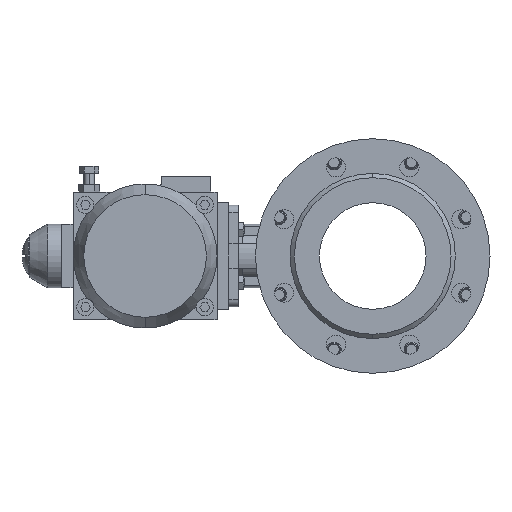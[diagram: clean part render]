
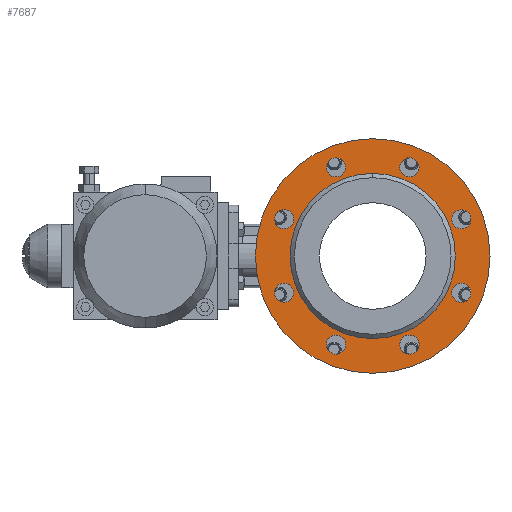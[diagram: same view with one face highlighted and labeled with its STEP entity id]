
A CAD part, left-side view. The second image highlights one B-rep face of the part: STEP entity #7687.
In plain terms, the highlighted planar face has unit normal (-1, 0, 0).
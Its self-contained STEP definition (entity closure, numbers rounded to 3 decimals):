
#1923=CARTESIAN_POINT('',(-77.,0.,0.));
#1924=DIRECTION('',(-1.,0.,0.));
#1925=DIRECTION('',(0.,0.,1.));
#1926=AXIS2_PLACEMENT_3D('',#1923,#1924,#1925);
#1928=CARTESIAN_POINT('',(-77.,0.,0.));
#1929=DIRECTION('',(-1.,0.,0.));
#1930=DIRECTION('',(0.,0.,-1.));
#1931=AXIS2_PLACEMENT_3D('',#1928,#1929,#1930);
#1933=CARTESIAN_POINT('',(-77.,0.,0.));
#1934=DIRECTION('',(-1.,0.,0.));
#1935=DIRECTION('',(0.,0.,1.));
#1936=AXIS2_PLACEMENT_3D('',#1933,#1934,#1935);
#1938=CARTESIAN_POINT('',(-77.,0.,0.));
#1939=DIRECTION('',(-1.,0.,0.));
#1940=DIRECTION('',(0.,0.,-1.));
#1941=AXIS2_PLACEMENT_3D('',#1938,#1939,#1940);
#1943=CARTESIAN_POINT('',(-77.,34.442,-83.149));
#1944=DIRECTION('',(-1.,0.,0.));
#1945=DIRECTION('',(0.,0.,1.));
#1946=AXIS2_PLACEMENT_3D('',#1943,#1944,#1945);
#1948=CARTESIAN_POINT('',(-77.,34.442,-83.149));
#1949=DIRECTION('',(-1.,0.,0.));
#1950=DIRECTION('',(0.,0.,-1.));
#1951=AXIS2_PLACEMENT_3D('',#1948,#1949,#1950);
#1953=CARTESIAN_POINT('',(-77.,-34.442,-83.149));
#1954=DIRECTION('',(-1.,0.,0.));
#1955=DIRECTION('',(0.,0.707,0.707));
#1956=AXIS2_PLACEMENT_3D('',#1953,#1954,#1955);
#1958=CARTESIAN_POINT('',(-77.,-34.442,-83.149));
#1959=DIRECTION('',(-1.,0.,0.));
#1960=DIRECTION('',(0.,-0.707,-0.707));
#1961=AXIS2_PLACEMENT_3D('',#1958,#1959,#1960);
#1963=CARTESIAN_POINT('',(-77.,-83.149,-34.442));
#1964=DIRECTION('',(-1.,0.,0.));
#1965=DIRECTION('',(0.,1.,0.));
#1966=AXIS2_PLACEMENT_3D('',#1963,#1964,#1965);
#1968=CARTESIAN_POINT('',(-77.,-83.149,-34.442));
#1969=DIRECTION('',(-1.,0.,0.));
#1970=DIRECTION('',(0.,-1.,0.));
#1971=AXIS2_PLACEMENT_3D('',#1968,#1969,#1970);
#1973=CARTESIAN_POINT('',(-77.,-83.149,34.442));
#1974=DIRECTION('',(-1.,0.,0.));
#1975=DIRECTION('',(0.,0.707,-0.707));
#1976=AXIS2_PLACEMENT_3D('',#1973,#1974,#1975);
#1978=CARTESIAN_POINT('',(-77.,-83.149,34.442));
#1979=DIRECTION('',(-1.,0.,0.));
#1980=DIRECTION('',(0.,-0.707,0.707));
#1981=AXIS2_PLACEMENT_3D('',#1978,#1979,#1980);
#1983=CARTESIAN_POINT('',(-77.,-34.442,83.149));
#1984=DIRECTION('',(-1.,0.,0.));
#1985=DIRECTION('',(0.,0.,-1.));
#1986=AXIS2_PLACEMENT_3D('',#1983,#1984,#1985);
#1988=CARTESIAN_POINT('',(-77.,-34.442,83.149));
#1989=DIRECTION('',(-1.,0.,0.));
#1990=DIRECTION('',(0.,0.,1.));
#1991=AXIS2_PLACEMENT_3D('',#1988,#1989,#1990);
#1993=CARTESIAN_POINT('',(-77.,34.442,83.149));
#1994=DIRECTION('',(-1.,0.,0.));
#1995=DIRECTION('',(0.,-0.707,-0.707));
#1996=AXIS2_PLACEMENT_3D('',#1993,#1994,#1995);
#1998=CARTESIAN_POINT('',(-77.,34.442,83.149));
#1999=DIRECTION('',(-1.,0.,0.));
#2000=DIRECTION('',(0.,0.707,0.707));
#2001=AXIS2_PLACEMENT_3D('',#1998,#1999,#2000);
#2003=CARTESIAN_POINT('',(-77.,83.149,34.442));
#2004=DIRECTION('',(-1.,0.,0.));
#2005=DIRECTION('',(0.,-1.,0.));
#2006=AXIS2_PLACEMENT_3D('',#2003,#2004,#2005);
#2008=CARTESIAN_POINT('',(-77.,83.149,34.442));
#2009=DIRECTION('',(-1.,0.,0.));
#2010=DIRECTION('',(0.,1.,0.));
#2011=AXIS2_PLACEMENT_3D('',#2008,#2009,#2010);
#2013=CARTESIAN_POINT('',(-77.,83.149,-34.442));
#2014=DIRECTION('',(-1.,0.,0.));
#2015=DIRECTION('',(0.,-0.707,0.707));
#2016=AXIS2_PLACEMENT_3D('',#2013,#2014,#2015);
#2018=CARTESIAN_POINT('',(-77.,83.149,-34.442));
#2019=DIRECTION('',(-1.,0.,0.));
#2020=DIRECTION('',(0.,0.707,-0.707));
#2021=AXIS2_PLACEMENT_3D('',#2018,#2019,#2020);
#4237=CARTESIAN_POINT('',(-77.,0.,110.));
#4238=CARTESIAN_POINT('',(-77.,0.,-110.));
#4239=VERTEX_POINT('',#4237);
#4240=VERTEX_POINT('',#4238);
#4249=CARTESIAN_POINT('',(-77.,0.,77.5));
#4250=CARTESIAN_POINT('',(-77.,0.,-77.5));
#4251=VERTEX_POINT('',#4249);
#4252=VERTEX_POINT('',#4250);
#4281=CARTESIAN_POINT('',(-77.,34.442,-74.149));
#4282=CARTESIAN_POINT('',(-77.,34.442,-92.149));
#4283=VERTEX_POINT('',#4281);
#4284=VERTEX_POINT('',#4282);
#4289=CARTESIAN_POINT('',(-77.,-28.078,-76.785));
#4290=CARTESIAN_POINT('',(-77.,-40.805,-89.513));
#4291=VERTEX_POINT('',#4289);
#4292=VERTEX_POINT('',#4290);
#4297=CARTESIAN_POINT('',(-77.,-74.149,-34.442));
#4298=CARTESIAN_POINT('',(-77.,-92.149,-34.442));
#4299=VERTEX_POINT('',#4297);
#4300=VERTEX_POINT('',#4298);
#4305=CARTESIAN_POINT('',(-77.,-76.785,28.078));
#4306=CARTESIAN_POINT('',(-77.,-89.513,40.805));
#4307=VERTEX_POINT('',#4305);
#4308=VERTEX_POINT('',#4306);
#4960=CARTESIAN_POINT('',(-77.,-34.442,74.149));
#4961=CARTESIAN_POINT('',(-77.,-34.442,92.149));
#4962=VERTEX_POINT('',#4960);
#4963=VERTEX_POINT('',#4961);
#4968=CARTESIAN_POINT('',(-77.,28.078,76.785));
#4969=CARTESIAN_POINT('',(-77.,40.805,89.513));
#4970=VERTEX_POINT('',#4968);
#4971=VERTEX_POINT('',#4969);
#4976=CARTESIAN_POINT('',(-77.,74.149,34.442));
#4977=CARTESIAN_POINT('',(-77.,92.149,34.442));
#4978=VERTEX_POINT('',#4976);
#4979=VERTEX_POINT('',#4977);
#4984=CARTESIAN_POINT('',(-77.,76.785,-28.078));
#4985=CARTESIAN_POINT('',(-77.,89.513,-40.805));
#4986=VERTEX_POINT('',#4984);
#4987=VERTEX_POINT('',#4985);
#7623=CARTESIAN_POINT('',(-77.,0.,0.));
#7624=DIRECTION('',(-1.,0.,0.));
#7625=DIRECTION('',(0.,0.,1.));
#7626=AXIS2_PLACEMENT_3D('',#7623,#7624,#7625);
#7627=PLANE('',#7626);
#7628=ORIENTED_EDGE('',*,*,#7613,.F.);
#7630=ORIENTED_EDGE('',*,*,#7629,.F.);
#7631=EDGE_LOOP('',(#7628,#7630));
#7632=FACE_OUTER_BOUND('',#7631,.F.);
#7634=ORIENTED_EDGE('',*,*,#7633,.T.);
#7636=ORIENTED_EDGE('',*,*,#7635,.T.);
#7637=EDGE_LOOP('',(#7634,#7636));
#7638=FACE_BOUND('',#7637,.F.);
#7640=ORIENTED_EDGE('',*,*,#7639,.T.);
#7642=ORIENTED_EDGE('',*,*,#7641,.T.);
#7643=EDGE_LOOP('',(#7640,#7642));
#7644=FACE_BOUND('',#7643,.F.);
#7646=ORIENTED_EDGE('',*,*,#7645,.T.);
#7648=ORIENTED_EDGE('',*,*,#7647,.T.);
#7649=EDGE_LOOP('',(#7646,#7648));
#7650=FACE_BOUND('',#7649,.F.);
#7652=ORIENTED_EDGE('',*,*,#7651,.T.);
#7654=ORIENTED_EDGE('',*,*,#7653,.T.);
#7655=EDGE_LOOP('',(#7652,#7654));
#7656=FACE_BOUND('',#7655,.F.);
#7658=ORIENTED_EDGE('',*,*,#7657,.T.);
#7660=ORIENTED_EDGE('',*,*,#7659,.T.);
#7661=EDGE_LOOP('',(#7658,#7660));
#7662=FACE_BOUND('',#7661,.F.);
#7664=ORIENTED_EDGE('',*,*,#7663,.T.);
#7666=ORIENTED_EDGE('',*,*,#7665,.T.);
#7667=EDGE_LOOP('',(#7664,#7666));
#7668=FACE_BOUND('',#7667,.F.);
#7670=ORIENTED_EDGE('',*,*,#7669,.T.);
#7672=ORIENTED_EDGE('',*,*,#7671,.T.);
#7673=EDGE_LOOP('',(#7670,#7672));
#7674=FACE_BOUND('',#7673,.F.);
#7676=ORIENTED_EDGE('',*,*,#7675,.T.);
#7678=ORIENTED_EDGE('',*,*,#7677,.T.);
#7679=EDGE_LOOP('',(#7676,#7678));
#7680=FACE_BOUND('',#7679,.F.);
#7682=ORIENTED_EDGE('',*,*,#7681,.T.);
#7684=ORIENTED_EDGE('',*,*,#7683,.T.);
#7685=EDGE_LOOP('',(#7682,#7684));
#7686=FACE_BOUND('',#7685,.F.);
#7687=ADVANCED_FACE('',(#7632,#7638,#7644,#7650,#7656,#7662,#7668,#7674,#7680,
#7686),#7627,.T.);
#1927=CIRCLE('',#1926,110.);
#1932=CIRCLE('',#1931,110.);
#1937=CIRCLE('',#1936,77.5);
#1942=CIRCLE('',#1941,77.5);
#1947=CIRCLE('',#1946,9.);
#1952=CIRCLE('',#1951,9.);
#1957=CIRCLE('',#1956,9.);
#1962=CIRCLE('',#1961,9.);
#1967=CIRCLE('',#1966,9.);
#1972=CIRCLE('',#1971,9.);
#1977=CIRCLE('',#1976,9.);
#1982=CIRCLE('',#1981,9.);
#1987=CIRCLE('',#1986,9.);
#1992=CIRCLE('',#1991,9.);
#1997=CIRCLE('',#1996,9.);
#2002=CIRCLE('',#2001,9.);
#2007=CIRCLE('',#2006,9.);
#2012=CIRCLE('',#2011,9.);
#2017=CIRCLE('',#2016,9.);
#2022=CIRCLE('',#2021,9.);
#7613=EDGE_CURVE('',#4239,#4240,#1927,.T.);
#7629=EDGE_CURVE('',#4240,#4239,#1932,.T.);
#7633=EDGE_CURVE('',#4251,#4252,#1937,.T.);
#7635=EDGE_CURVE('',#4252,#4251,#1942,.T.);
#7639=EDGE_CURVE('',#4283,#4284,#1947,.T.);
#7641=EDGE_CURVE('',#4284,#4283,#1952,.T.);
#7645=EDGE_CURVE('',#4291,#4292,#1957,.T.);
#7647=EDGE_CURVE('',#4292,#4291,#1962,.T.);
#7651=EDGE_CURVE('',#4299,#4300,#1967,.T.);
#7653=EDGE_CURVE('',#4300,#4299,#1972,.T.);
#7657=EDGE_CURVE('',#4307,#4308,#1977,.T.);
#7659=EDGE_CURVE('',#4308,#4307,#1982,.T.);
#7663=EDGE_CURVE('',#4962,#4963,#1987,.T.);
#7665=EDGE_CURVE('',#4963,#4962,#1992,.T.);
#7669=EDGE_CURVE('',#4970,#4971,#1997,.T.);
#7671=EDGE_CURVE('',#4971,#4970,#2002,.T.);
#7675=EDGE_CURVE('',#4978,#4979,#2007,.T.);
#7677=EDGE_CURVE('',#4979,#4978,#2012,.T.);
#7681=EDGE_CURVE('',#4986,#4987,#2017,.T.);
#7683=EDGE_CURVE('',#4987,#4986,#2022,.T.);
